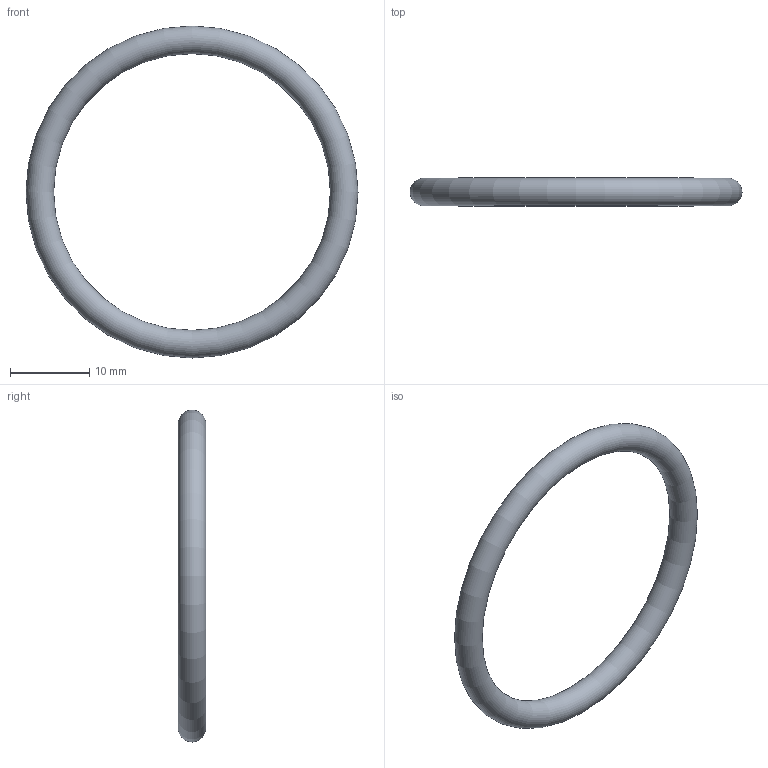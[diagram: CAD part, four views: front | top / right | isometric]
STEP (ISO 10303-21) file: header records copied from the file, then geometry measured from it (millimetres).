
FILE_DESCRIPTION( ( 'STEP AP203' ), '1' );
FILE_NAME( 'C:/Temp/Ganter_Step_05_03_2020/data/3_5/or638/O-Ring OR638-35.00-3.50-70.stp', '2020-03-12T13:44:32', ( 'License CC BY-ND 4.0' ), ( 'CADENAS' ), ' ', 'PARTsolutions', ' ' );
FILE_SCHEMA( ( 'CONFIG_CONTROL_DESIGN' ) );
Length unit declared in the file: millimetre
Products named in the file (1): _O-Ring OR638-35.00-3.50-70
Bounding box: 42 x 3.5 x 42 mm (x, y, z)
Volume: 1163.7 mm3; surface area: 1329.9 mm2
Topology: 1 solids, 1 shells, 1 faces, 2 edges, 1 vertices
Faces by surface type: torus 1
Entity records: 62 total; most frequent: CC_DESIGN_PERSON_AND_ORGANIZATION_ASSIGNMENT 5, PERSON_AND_ORGANIZATION_ROLE 4, DIRECTION 4, CARTESIAN_POINT 3, DATE_TIME_ROLE 2, CC_DESIGN_DATE_AND_TIME_ASSIGNMENT 2, AXIS2_PLACEMENT_3D 2, DIMENSIONAL_EXPONENTS 2
